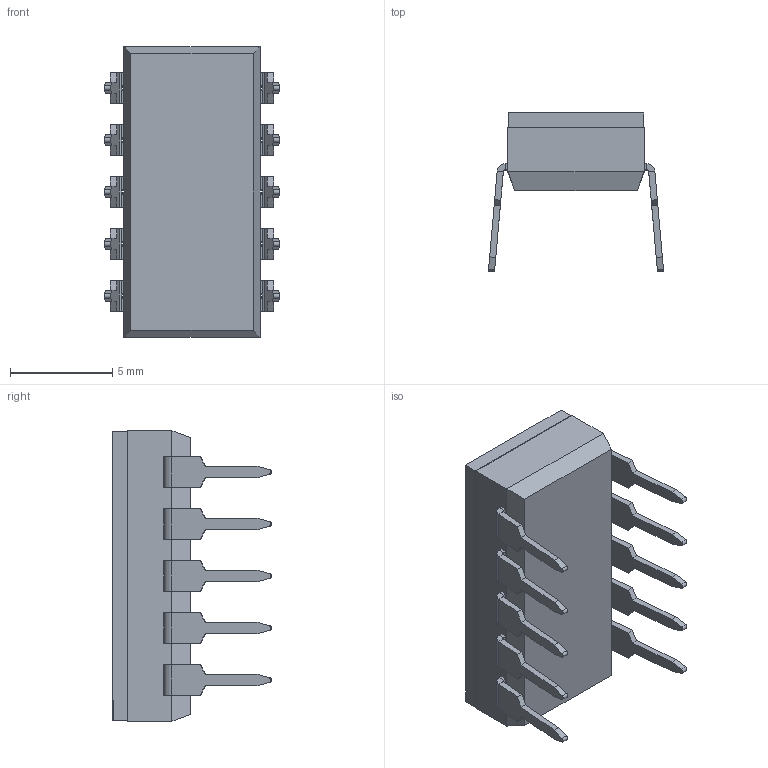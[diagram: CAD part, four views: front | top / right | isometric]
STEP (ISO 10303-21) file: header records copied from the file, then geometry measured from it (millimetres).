
FILE_DESCRIPTION (( 'STEP AP203' ), '1' );
FILE_NAME ('209-5LPS.STEP', '2019-05-24T07:09:17', ( '' ), ( '' ), 'SwSTEP 2.0', 'SolidWorks 2019', '' );
FILE_SCHEMA (( 'CONFIG_CONTROL_DESIGN' ));
Length unit declared in the file: millimetre
Products named in the file (5): 209-02-205 mold housing for 209; 209-40-205 for 209; 219-56-001; 209-83-001-06-01 lead frame; 209-5LPS
Assembly tree (12 placements, depth 2):
  209-5LPS
    209-02-205 mold housing for 209
    209-40-205 for 209
    219-56-001  x5
    209-83-001-06-01 lead frame  x5
Bounding box: 8.55 x 7.76 x 14.18 mm (x, y, z)
Volume: 307 mm3; surface area: 1014.1 mm2
Topology: 17 solids, 17 shells, 787 faces, 2027 edges, 1290 vertices
Faces by surface type: plane 481, bspline 176, cylinder 110, sphere 20
Entity records: 23094 total; most frequent: CARTESIAN_POINT 12615, ORIENTED_EDGE 2318, DIRECTION 1407, EDGE_CURVE 1159, VECTOR 763, LINE 763, VERTEX_POINT 762, EDGE_LOOP 485
